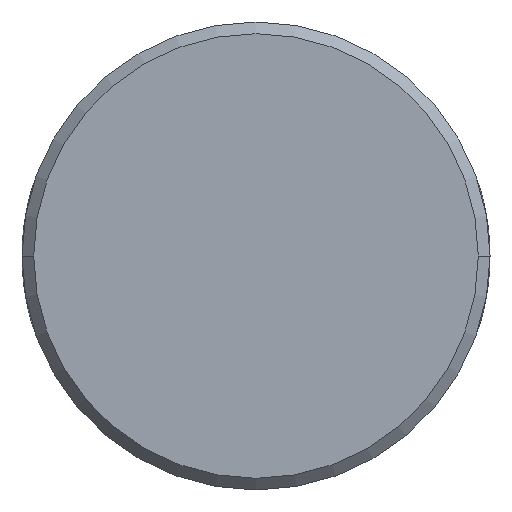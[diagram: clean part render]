
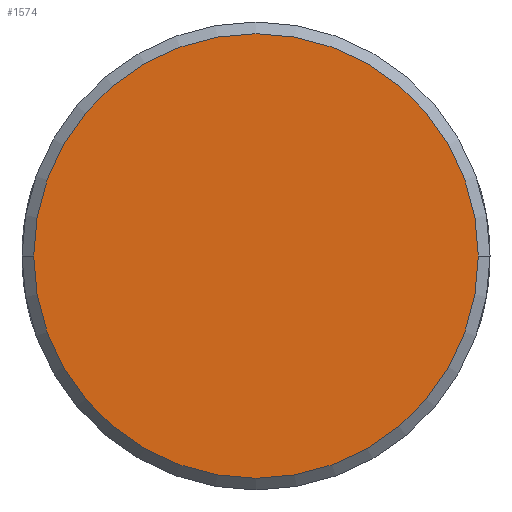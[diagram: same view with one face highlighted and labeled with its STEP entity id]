
A CAD part, front view. The second image highlights one B-rep face of the part: STEP entity #1574.
In plain terms, the highlighted planar face has unit normal (0, -1, 0).
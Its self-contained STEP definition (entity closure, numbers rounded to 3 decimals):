
#1=CARTESIAN_POINT('',(0.,-15.,0.));
#2=DIRECTION('',(0.,-1.,0.));
#3=DIRECTION('',(-1.,0.,0.));
#4=AXIS2_PLACEMENT_3D('',#1,#2,#3);
#6=CARTESIAN_POINT('',(0.,-15.,0.));
#7=DIRECTION('',(0.,-1.,0.));
#8=DIRECTION('',(1.,0.,0.));
#9=AXIS2_PLACEMENT_3D('',#6,#7,#8);
#1480=CARTESIAN_POINT('',(-5.7,-15.,0.));
#1481=CARTESIAN_POINT('',(5.7,-15.,0.));
#1482=VERTEX_POINT('',#1480);
#1483=VERTEX_POINT('',#1481);
#1563=CARTESIAN_POINT('',(0.,-15.,0.));
#1564=DIRECTION('',(0.,1.,0.));
#1565=DIRECTION('',(1.,0.,0.));
#1566=AXIS2_PLACEMENT_3D('',#1563,#1564,#1565);
#1567=PLANE('',#1566);
#1569=ORIENTED_EDGE('',*,*,#1568,.F.);
#1571=ORIENTED_EDGE('',*,*,#1570,.F.);
#1572=EDGE_LOOP('',(#1569,#1571));
#1573=FACE_OUTER_BOUND('',#1572,.F.);
#1574=ADVANCED_FACE('',(#1573),#1567,.F.);
#5=CIRCLE('',#4,5.7);
#10=CIRCLE('',#9,5.7);
#1568=EDGE_CURVE('',#1482,#1483,#5,.T.);
#1570=EDGE_CURVE('',#1483,#1482,#10,.T.);
